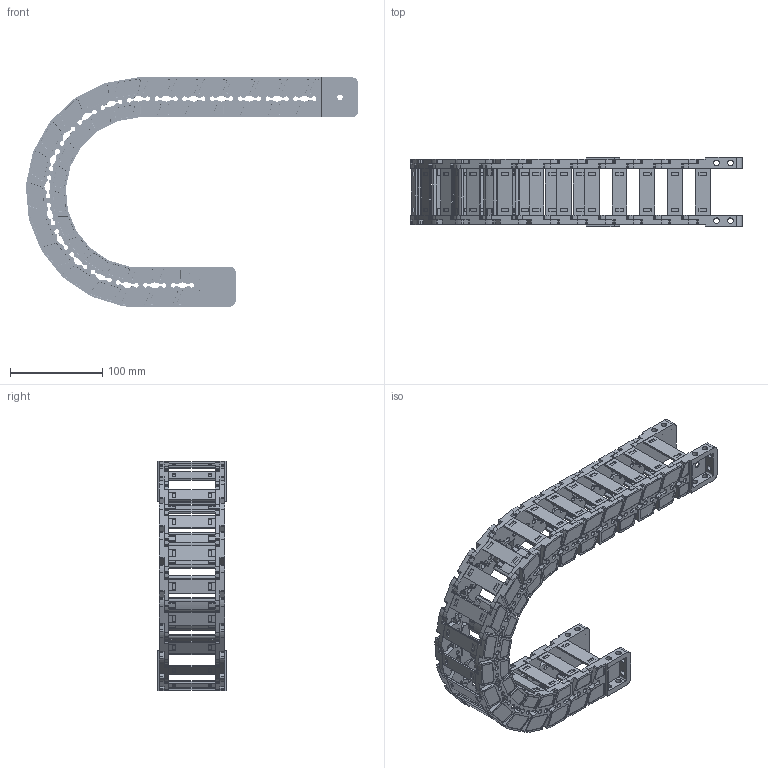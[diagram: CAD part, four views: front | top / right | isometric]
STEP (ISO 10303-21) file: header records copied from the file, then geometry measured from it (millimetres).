
FILE_DESCRIPTION((''),'2;1');
FILE_NAME('JY-35X50-R100_ASM','2025-01-05T19:21:52',('admin'),(''),'CREO PARAMETRIC BY PTC INC, 2021023','CREO PARAMETRIC BY PTC INC, 2021023','');
FILE_SCHEMA(('CONFIG_CONTROL_DESIGN'));
Length unit declared in the file: millimetre
Products named in the file (11): 35XL-L; YP; 35XL-R; ASM0001_ASM; 35-LTT-A-L; 35-LTT-A-R; 35XL-LTT-A_ASM; 35-LTT-B-L; 35-LTT-B-R; 35XL-LTT-B_ASM; JY-35X50-R100_ASM
Assembly tree (32 placements, depth 3):
  JY-35X50-R100_ASM
    ASM0001_ASM  x18
      35XL-L
      YP
      35XL-R
    35XL-LTT-A_ASM
      35-LTT-A-L
      YP  x2
      35-LTT-A-R
    35XL-LTT-B_ASM
      35-LTT-B-L
      YP  x2
      35-LTT-B-R
Bounding box: 359.13 x 74.5 x 247.81 mm (x, y, z)
Volume: 533257.6 mm3; surface area: 314376.4 mm2
Topology: 80 solids, 80 shells, 6520 faces, 19542 edges, 13190 vertices
Faces by surface type: plane 3688, cylinder 2148, cone 418, extrusion 152, bspline 114
Entity records: 27866 total; most frequent: CARTESIAN_POINT 6165, ORIENTED_EDGE 4640, DIRECTION 4359, EDGE_CURVE 2320, VERTEX_POINT 1568, AXIS2_PLACEMENT_3D 1471, VECTOR 1417, LINE 1401
